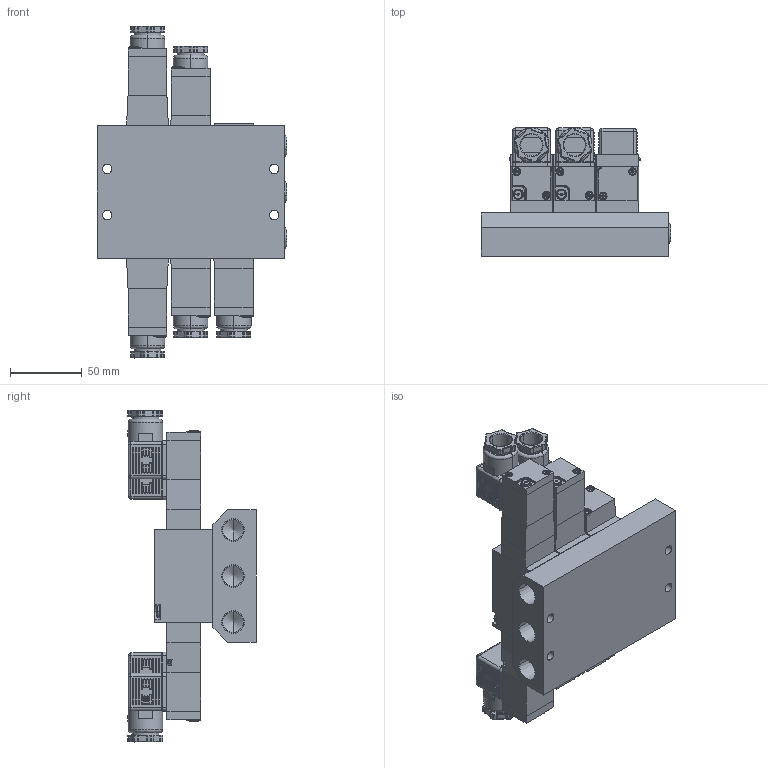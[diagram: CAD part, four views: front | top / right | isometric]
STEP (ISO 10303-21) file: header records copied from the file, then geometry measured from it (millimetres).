
FILE_DESCRIPTION (( 'STEP AP203' ), '1' );
FILE_NAME ('MFU#-RC08-C.STEP', '2016-02-04T05:39:53', ( 'Sam Lin' ), ( '' ), 'SwSTEP 2.0', 'SolidWorks 2013', '' );
FILE_SCHEMA (( 'CONFIG_CONTROL_DESIGN' ));
Length unit declared in the file: metre
Products named in the file (17): RC08-2; ISO 7045 - M4 x 40; 承頭3-8; PCS2406-7; MFU#-RC08-C; PCS2406-8; MFU#-RC08; PCS2406-9; RC08-墊片; PC6-M3; RC08-1; PCS2406-3-C; PC08-4; PC6-M4; PCS2406-3-小圓珠; PC08-5; RC08-MARK
Assembly tree (70 placements, depth 2):
  MFU#-RC08-C
    MFU#-RC08
    RC08-墊片  x3
    RC08-1  x3
    PC08-4  x5
    PCS2406-3-小圓珠  x6
    RC08-MARK  x3
    ISO 7045 - M4 x 40  x6
    PCS2406-7  x5
    PCS2406-8  x5
    PCS2406-9  x5
    PC6-M3  x12
    PCS2406-3-C  x5
    PC6-M4  x5
    PC08-5  x2
    RC08-2
    承頭3-8  x3
Bounding box: 131.89 x 89.14 x 230.7 mm (x, y, z)
Volume: 809771.6 mm3; surface area: 209282.7 mm2
Topology: 88 solids, 88 shells, 3330 faces, 8539 edges, 4875 vertices
Faces by surface type: plane 1206, cylinder 941, bspline 906, cone 277
Entity records: 31884 total; most frequent: CARTESIAN_POINT 11964, ORIENTED_EDGE 3510, DIRECTION 3353, EDGE_CURVE 1755, AXIS2_PLACEMENT_3D 1246, VERTEX_POINT 1113, VECTOR 861, LINE 861
